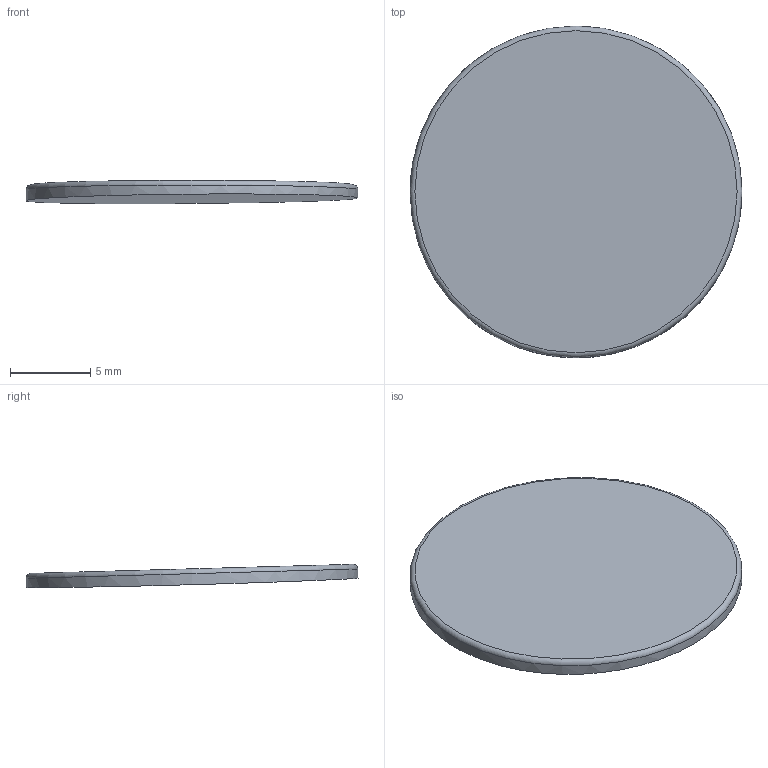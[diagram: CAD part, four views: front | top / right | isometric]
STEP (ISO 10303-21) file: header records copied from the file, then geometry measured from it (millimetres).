
FILE_DESCRIPTION(/* description */ ('','CAx-IF Rec.Pracs.---Representation and Presentation of Product Manufacturing Information (PMI)---4.0---2014-10-13'),/* implementation_level */ '2;1');
FILE_NAME(/* name */ '20thhuckinshatch1.step',/* time_stamp */ '2025-03-21T20:56:00+11:00',/* author */ (''),/* organization */ (''),/* preprocessor_version */ 'ST-DEVELOPER v20',/* originating_system */ 'Autodesk Translation Framework v13.20.0.188',/* authorisation */ '');
FILE_SCHEMA (('AP242_MANAGED_MODEL_BASED_3D_ENGINEERING_MIM_LF { 1 0 10303 442 1 1 4 }'));
Length unit declared in the file: millimetre
Products named in the file (1): HuckinsDeckParts
Bounding box: 20.66 x 20.67 x 1.45 mm (x, y, z)
Volume: 292 mm3; surface area: 719.4 mm2
Topology: 1 solids, 1 shells, 4 faces, 5 edges, 3 vertices
Faces by surface type: cylinder 2, torus 1, plane 1
Full cylindrical faces by diameter (mm): 20.662 x1
Entity records: 162 total; most frequent: CARTESIAN_POINT 46, DIRECTION 17, ORIENTED_EDGE 10, AXIS2_PLACEMENT_3D 8, EDGE_CURVE 5, FACE_OUTER_BOUND 4, EDGE_LOOP 4, ADVANCED_FACE 4
